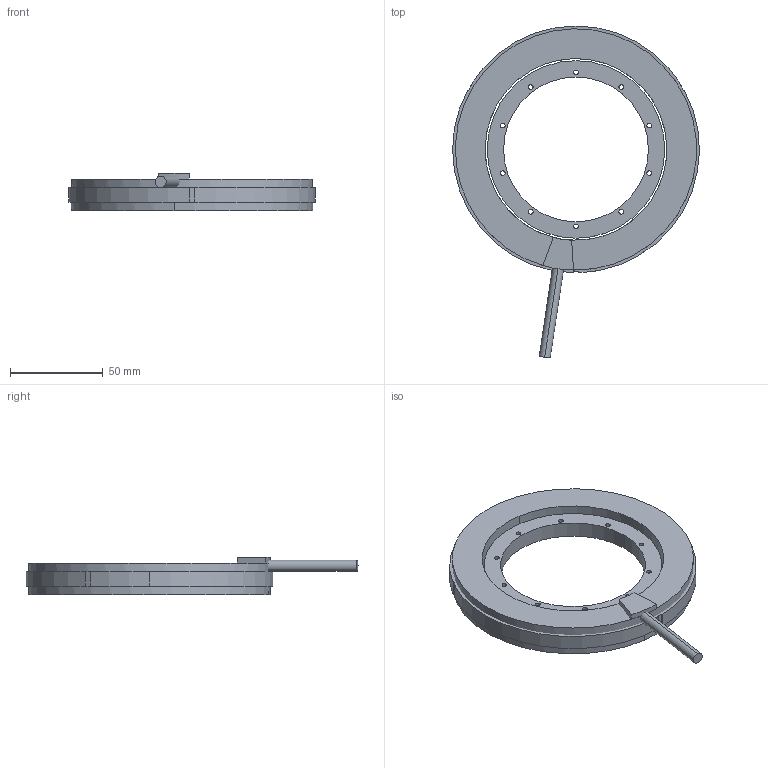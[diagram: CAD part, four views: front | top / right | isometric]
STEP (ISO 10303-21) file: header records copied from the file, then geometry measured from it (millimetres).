
FILE_DESCRIPTION (( 'STEP AP203' ), '1' );
FILE_NAME ('TMXSL 133-17 KIT 3D.STEP', '2021-06-08T00:49:36', ( '' ), ( '' ), 'SwSTEP 2.0', 'SolidWorks 2021', '' );
FILE_SCHEMA (( 'CONFIG_CONTROL_DESIGN' ));
Length unit declared in the file: millimetre
Products named in the file (1): TMXSL 133-17 KIT 3D
Bounding box: 133 x 178.9 x 20 mm (x, y, z)
Volume: 135799.3 mm3; surface area: 45589.3 mm2
Topology: 4 solids, 4 shells, 151 faces, 424 edges, 280 vertices
Faces by surface type: cylinder 79, plane 72
Entity records: 5047 total; most frequent: DIRECTION 890, CARTESIAN_POINT 856, ORIENTED_EDGE 848, EDGE_CURVE 424, AXIS2_PLACEMENT_3D 314, VERTEX_POINT 280, VECTOR 262, LINE 262
